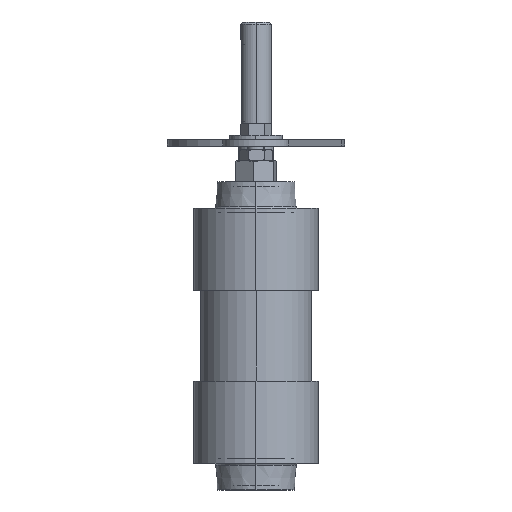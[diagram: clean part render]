
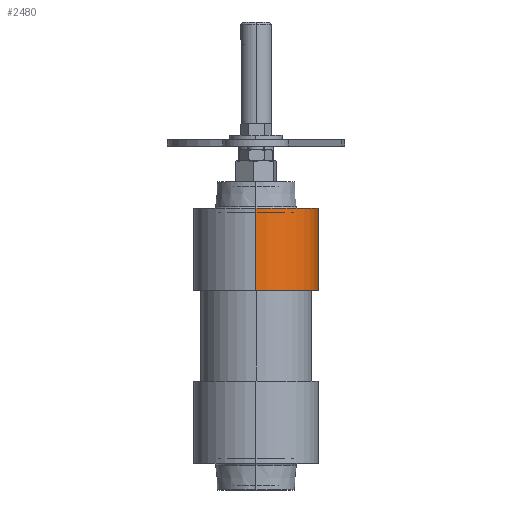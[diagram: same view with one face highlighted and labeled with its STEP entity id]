
A CAD part, left-side view. The second image highlights one B-rep face of the part: STEP entity #2480.
In plain terms, the highlighted cylindrical face has radius 28 mm (diameter 56 mm), a partial arc.
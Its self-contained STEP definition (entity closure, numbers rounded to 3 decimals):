
#694 = DIRECTION ( 'NONE',  ( 0., 0., -1. ) ) ;
#900 = VERTEX_POINT ( 'NONE', #11388 ) ;
#1188 = DIRECTION ( 'NONE',  ( 0., 0., -1. ) ) ;
#1203 = LINE ( 'NONE', #5130, #15076 ) ;
#1484 = EDGE_CURVE ( 'NONE', #9027, #900, #9292, .T. ) ;
#1665 = ORIENTED_EDGE ( 'NONE', *, *, #4015, .T. ) ;
#2480 = ADVANCED_FACE ( 'NONE', ( #6768 ), #6371, .T. ) ;
#3798 = DIRECTION ( 'NONE',  ( 0., 0., 1. ) ) ;
#4015 = EDGE_CURVE ( 'NONE', #9027, #9314, #9985, .T. ) ;
#4152 = AXIS2_PLACEMENT_3D ( 'NONE', #7787, #694, #11161 ) ;
#5130 = CARTESIAN_POINT ( 'NONE',  ( 0., -28., 37. ) ) ;
#5725 = VECTOR ( 'NONE', #6363, 1000. ) ;
#6363 = DIRECTION ( 'NONE',  ( 0., 0., -1. ) ) ;
#6371 = CYLINDRICAL_SURFACE ( 'NONE', #4152, 28. ) ;
#6506 = EDGE_CURVE ( 'NONE', #9314, #14261, #14827, .T. ) ;
#6768 = FACE_OUTER_BOUND ( 'NONE', #8730, .T. ) ;
#6785 = CARTESIAN_POINT ( 'NONE',  ( -28., 0., 0. ) ) ;
#7114 = ORIENTED_EDGE ( 'NONE', *, *, #12578, .F. ) ;
#7787 = CARTESIAN_POINT ( 'NONE',  ( 0., 0., 37. ) ) ;
#7908 = AXIS2_PLACEMENT_3D ( 'NONE', #11610, #3798, #12942 ) ;
#8730 = EDGE_LOOP ( 'NONE', ( #10284, #1665, #13073, #7114 ) ) ;
#8750 = CARTESIAN_POINT ( 'NONE',  ( -28., 0., 37. ) ) ;
#8891 = CARTESIAN_POINT ( 'NONE',  ( 0., -28., 0. ) ) ;
#9027 = VERTEX_POINT ( 'NONE', #8750 ) ;
#9292 = CIRCLE ( 'NONE', #13634, 28. ) ;
#9314 = VERTEX_POINT ( 'NONE', #6785 ) ;
#9985 = LINE ( 'NONE', #15466, #5725 ) ;
#10004 = DIRECTION ( 'NONE',  ( 0., 0., 1. ) ) ;
#10284 = ORIENTED_EDGE ( 'NONE', *, *, #1484, .F. ) ;
#11161 = DIRECTION ( 'NONE',  ( -1., 0., 0. ) ) ;
#11388 = CARTESIAN_POINT ( 'NONE',  ( 0., -28., 37. ) ) ;
#11610 = CARTESIAN_POINT ( 'NONE',  ( 0., 0., 0. ) ) ;
#11617 = CARTESIAN_POINT ( 'NONE',  ( 0., 0., 37. ) ) ;
#12578 = EDGE_CURVE ( 'NONE', #900, #14261, #1203, .T. ) ;
#12942 = DIRECTION ( 'NONE',  ( 1., 0., 0. ) ) ;
#13073 = ORIENTED_EDGE ( 'NONE', *, *, #6506, .T. ) ;
#13634 = AXIS2_PLACEMENT_3D ( 'NONE', #11617, #10004, #15904 ) ;
#14261 = VERTEX_POINT ( 'NONE', #8891 ) ;
#14827 = CIRCLE ( 'NONE', #7908, 28. ) ;
#15076 = VECTOR ( 'NONE', #1188, 1000. ) ;
#15466 = CARTESIAN_POINT ( 'NONE',  ( -28., 0., 37. ) ) ;
#15904 = DIRECTION ( 'NONE',  ( 1., 0., 0. ) ) ;
